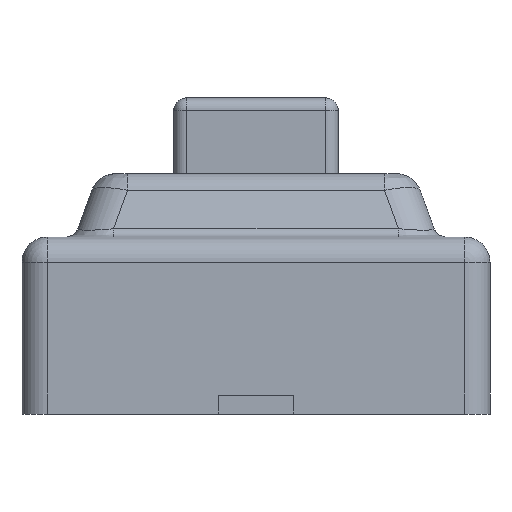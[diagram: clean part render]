
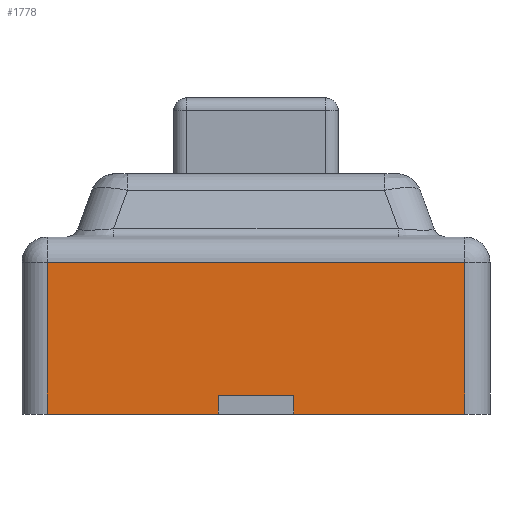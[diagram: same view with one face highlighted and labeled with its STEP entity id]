
A CAD part, left-side view. The second image highlights one B-rep face of the part: STEP entity #1778.
In plain terms, the highlighted planar face has unit normal (-1, 0, 0).
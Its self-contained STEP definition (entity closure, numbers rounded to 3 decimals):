
#1446 = VERTEX_POINT('',#1447);
#1447 = CARTESIAN_POINT('',(-3.05,1.65,1.2));
#1456 = VERTEX_POINT('',#1457);
#1457 = CARTESIAN_POINT('',(-3.05,-1.65,1.2));
#1464 = EDGE_CURVE('',#1446,#1456,#1465,.T.);
#1465 = LINE('',#1466,#1467);
#1466 = CARTESIAN_POINT('',(-3.05,1.85,1.2));
#1467 = VECTOR('',#1468,1.);
#1468 = DIRECTION('',(0.,-1.,0.));
#1778 = ADVANCED_FACE('',(#1779),#1804,.F.);
#1779 = FACE_BOUND('',#1780,.F.);
#1780 = EDGE_LOOP('',(#1781,#1791,#1797,#1798));
#1781 = ORIENTED_EDGE('',*,*,#1782,.F.);
#1782 = EDGE_CURVE('',#1783,#1785,#1787,.T.);
#1783 = VERTEX_POINT('',#1784);
#1784 = CARTESIAN_POINT('',(-3.05,1.65,0.));
#1785 = VERTEX_POINT('',#1786);
#1786 = CARTESIAN_POINT('',(-3.05,-1.65,0.));
#1787 = LINE('',#1788,#1789);
#1788 = CARTESIAN_POINT('',(-3.05,1.85,0.));
#1789 = VECTOR('',#1790,1.);
#1790 = DIRECTION('',(0.,-1.,0.));
#1791 = ORIENTED_EDGE('',*,*,#1792,.T.);
#1792 = EDGE_CURVE('',#1783,#1446,#1793,.T.);
#1793 = LINE('',#1794,#1795);
#1794 = CARTESIAN_POINT('',(-3.05,1.65,0.));
#1795 = VECTOR('',#1796,1.);
#1796 = DIRECTION('',(0.,0.,1.));
#1797 = ORIENTED_EDGE('',*,*,#1464,.T.);
#1798 = ORIENTED_EDGE('',*,*,#1799,.F.);
#1799 = EDGE_CURVE('',#1785,#1456,#1800,.T.);
#1800 = LINE('',#1801,#1802);
#1801 = CARTESIAN_POINT('',(-3.05,-1.65,0.));
#1802 = VECTOR('',#1803,1.);
#1803 = DIRECTION('',(0.,0.,1.));
#1804 = PLANE('',#1805);
#1805 = AXIS2_PLACEMENT_3D('',#1806,#1807,#1808);
#1806 = CARTESIAN_POINT('',(-3.05,1.85,0.));
#1807 = DIRECTION('',(1.,0.,0.));
#1808 = DIRECTION('',(0.,-1.,0.));
